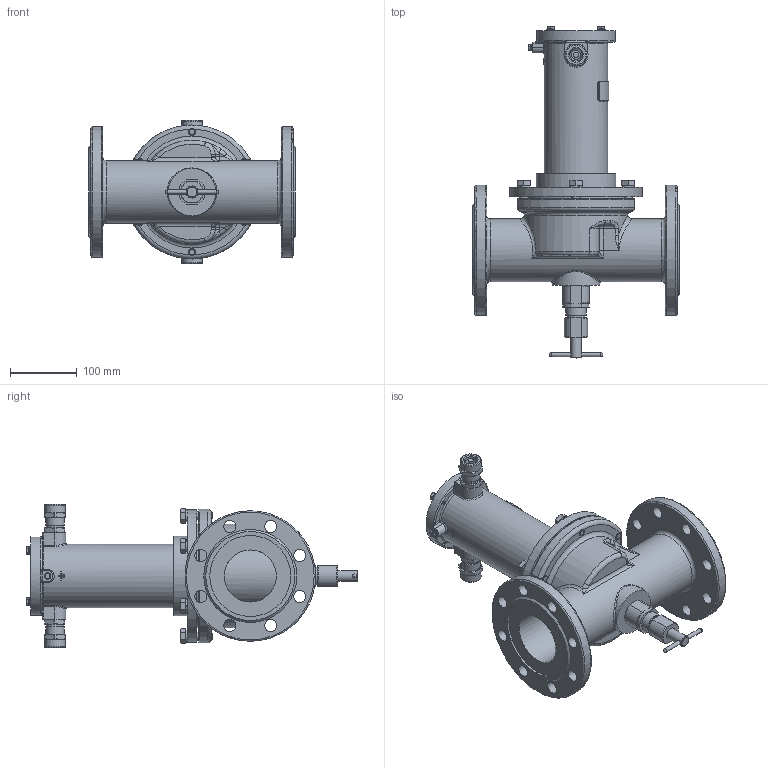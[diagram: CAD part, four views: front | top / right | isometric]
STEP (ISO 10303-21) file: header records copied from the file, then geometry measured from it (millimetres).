
FILE_DESCRIPTION(('STEP AP203'), '1');
FILE_NAME('ÑÅÍÑ-ÏÔ DN80PN25.stp', '2018-10-09T08:08:42', ('Îðëîâ Å.Â.'), ('ÎÎÎ ÍÏÏ Ñåíñîð'), 'ASCON STEP Converter 1.3', 'Kompas 3D', '');
FILE_SCHEMA(('CONFIG_CONTROL_DESIGN','SUPPORT_RESOURCE_SCHEMA'));
Length unit declared in the file: millimetre
Products named in the file (1): 60
Bounding box: 308 x 496.2 x 214 mm (x, y, z)
Volume: 3085260.7 mm3; surface area: 711702.8 mm2
Topology: 3 solids, 17 shells, 1967 faces, 5268 edges, 3412 vertices
Faces by surface type: cylinder 996, plane 721, cone 121, bspline 56, torus 49, extrusion 16, sphere 8
Full cylindrical faces by diameter (mm): 3.5 x2, 4.134 x1, 4.917 x4, 5 x1, 6 x9, 6.5 x4, 8 x4, 10 x1, 12 x10, 13 x8, 16 x2, 17 x2, 18 x17, 18.632 x2, 20 x3, 22 x2, 22.376 x2, 23 x1, 23.5 x2, 24 x2, 24.5 x2, 26 x4, 26.376 x2, 27.8 x1, 28 x3, 28.5 x2, 30 x2, 31 x2, 53 x1, 56 x2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
Entity records: 79678 total; most frequent: CARTESIAN_POINT 29598, DIRECTION 10767, ORIENTED_EDGE 10482, EDGE_CURVE 5241, AXIS2_PLACEMENT_3D 4140, VERTEX_POINT 3412, VECTOR 2487, LINE 2471
